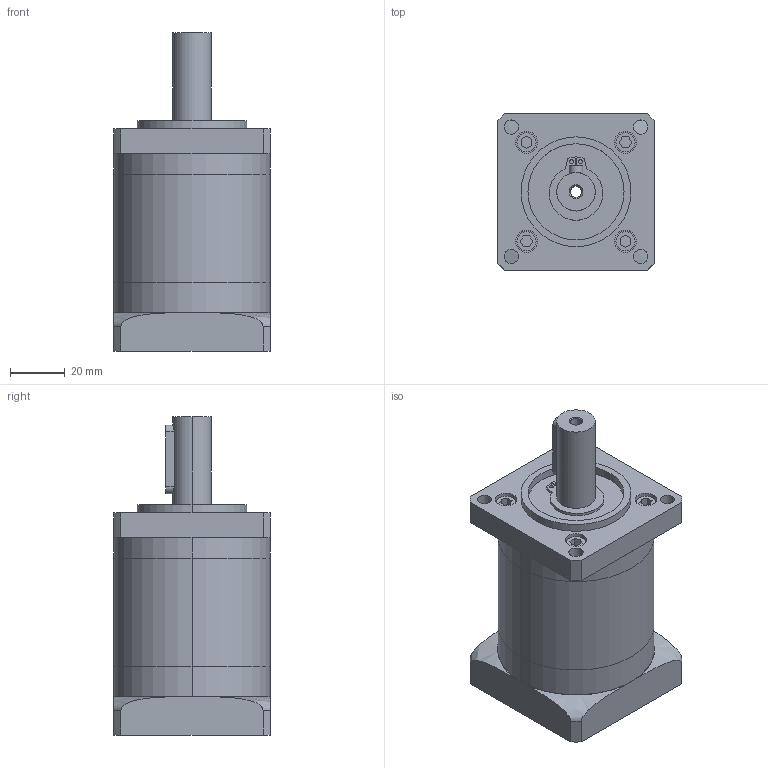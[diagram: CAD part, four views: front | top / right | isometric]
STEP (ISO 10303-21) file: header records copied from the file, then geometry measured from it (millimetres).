
FILE_DESCRIPTION (( 'STEP AP214' ), '1' );
FILE_NAME ('DLF57-L2-( )-J14-BJ-GC.step', '2020-11-17T06:01:11', ( 'Moofasta' ), ( '' ), 'SwSTEP 2.0', 'SolidWorks 2020', '' );
FILE_SCHEMA (( 'AUTOMOTIVE_DESIGN' ));
Length unit declared in the file: millimetre
Products named in the file (1): DLF57-L2-( )-J14-BJ-GC
Bounding box: 57 x 57 x 116 mm (x, y, z)
Volume: 218036.8 mm3; surface area: 47745.7 mm2
Topology: 5 solids, 5 shells, 234 faces, 551 edges, 358 vertices
Faces by surface type: plane 117, cylinder 103, cone 10, bspline 4
Entity records: 8042 total; most frequent: CARTESIAN_POINT 1939, DIRECTION 1185, ORIENTED_EDGE 1086, EDGE_CURVE 543, AXIS2_PLACEMENT_3D 432, VERTEX_POINT 358, LINE 321, VECTOR 321
